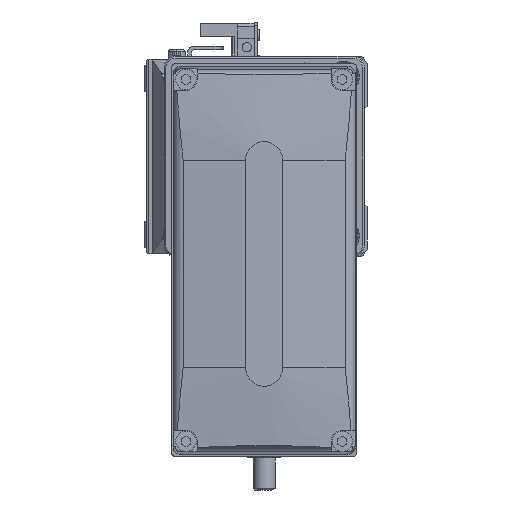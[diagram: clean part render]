
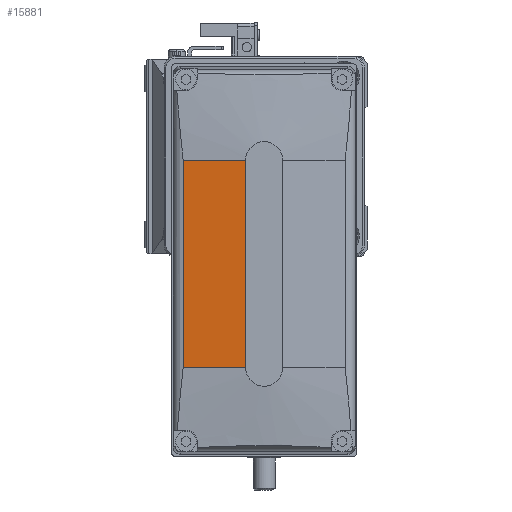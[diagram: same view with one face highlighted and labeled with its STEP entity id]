
A CAD part, left-side view. The second image highlights one B-rep face of the part: STEP entity #15881.
In plain terms, the highlighted planar face has unit normal (-0.996, 0.087, 0) as drawn and (-0.996, 0, -0.087) by its records, which use the part's own axes.
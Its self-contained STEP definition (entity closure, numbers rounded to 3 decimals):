
#201 = CARTESIAN_POINT ( 'NONE',  ( -50., 28., -5. ) ) ;
#284 = VECTOR ( 'NONE', #26919, 1000. ) ;
#796 = DIRECTION ( 'NONE',  ( 0., 1., 0. ) ) ;
#3923 = VECTOR ( 'NONE', #21607, 1000. ) ;
#5373 = CARTESIAN_POINT ( 'NONE',  ( -50., -28., -5. ) ) ;
#6084 = CARTESIAN_POINT ( 'NONE',  ( -50., 128., -5. ) ) ;
#6340 = DIRECTION ( 'NONE',  ( -0.087, 0., 0.996 ) ) ;
#7556 = EDGE_LOOP ( 'NONE', ( #20916, #22536, #17820, #17928 ) ) ;
#9532 = FACE_OUTER_BOUND ( 'NONE', #7556, .T. ) ;
#10296 = CARTESIAN_POINT ( 'NONE',  ( -48.525, -28., -21.861 ) ) ;
#11517 = LINE ( 'NONE', #15807, #3923 ) ;
#12211 = EDGE_CURVE ( 'NONE', #29345, #27843, #34946, .T. ) ;
#14685 = CARTESIAN_POINT ( 'NONE',  ( -50., 128., -5. ) ) ;
#15646 = LINE ( 'NONE', #6084, #29736 ) ;
#15807 = CARTESIAN_POINT ( 'NONE',  ( 43606.406, -28., -499000. ) ) ;
#15881 = ADVANCED_FACE ( 'NONE', ( #9532 ), #23184, .T. ) ;
#17081 = CARTESIAN_POINT ( 'NONE',  ( 43606.406, 28., -499000. ) ) ;
#17820 = ORIENTED_EDGE ( 'NONE', *, *, #24111, .F. ) ;
#17928 = ORIENTED_EDGE ( 'NONE', *, *, #28038, .T. ) ;
#18929 = CARTESIAN_POINT ( 'NONE',  ( -48.525, 28., -21.861 ) ) ;
#20916 = ORIENTED_EDGE ( 'NONE', *, *, #12211, .F. ) ;
#21506 = EDGE_CURVE ( 'NONE', #36753, #29345, #35803, .T. ) ;
#21607 = DIRECTION ( 'NONE',  ( 0.087, 0., -0.996 ) ) ;
#22536 = ORIENTED_EDGE ( 'NONE', *, *, #21506, .F. ) ;
#22953 = DIRECTION ( 'NONE',  ( -0.996, 0., -0.087 ) ) ;
#23097 = DIRECTION ( 'NONE',  ( -0.087, 0., 0.996 ) ) ;
#23184 = PLANE ( 'NONE',  #30740 ) ;
#24111 = EDGE_CURVE ( 'NONE', #35401, #36753, #11517, .T. ) ;
#26919 = DIRECTION ( 'NONE',  ( 0., 1., 0. ) ) ;
#27404 = VECTOR ( 'NONE', #23097, 1000. ) ;
#27843 = VERTEX_POINT ( 'NONE', #201 ) ;
#28038 = EDGE_CURVE ( 'NONE', #35401, #27843, #15646, .T. ) ;
#29345 = VERTEX_POINT ( 'NONE', #18929 ) ;
#29736 = VECTOR ( 'NONE', #796, 1000. ) ;
#30740 = AXIS2_PLACEMENT_3D ( 'NONE', #14685, #22953, #6340 ) ;
#34946 = LINE ( 'NONE', #17081, #27404 ) ;
#35401 = VERTEX_POINT ( 'NONE', #5373 ) ;
#35608 = CARTESIAN_POINT ( 'NONE',  ( -48.525, 128., -21.861 ) ) ;
#35803 = LINE ( 'NONE', #35608, #284 ) ;
#36753 = VERTEX_POINT ( 'NONE', #10296 ) ;
